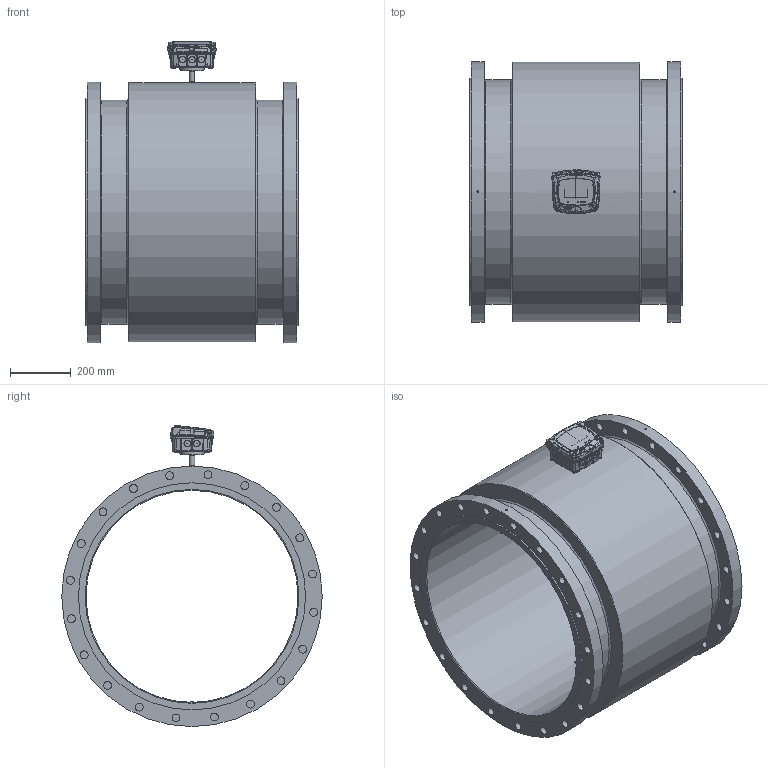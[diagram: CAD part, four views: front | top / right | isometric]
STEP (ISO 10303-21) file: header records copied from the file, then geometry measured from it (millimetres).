
FILE_DESCRIPTION((''),'2;1');
FILE_NAME('C:\Users\Claus\Dropbox\Projects 2011 - 2012\MJK Automation AS\STEP 3D DIN EN-1095-1\DN 700 - DIN EN-1095-1.stp','2015-01-17T21:17:52',('Claus'),(''),'Autodesk Inventor 2013','Autodesk Inventor 2013','');
FILE_SCHEMA(('AUTOMOTIVE_DESIGN { 1 0 10303 214 1 1 1 1 }'));
Length unit declared in the file: millimetre
Products named in the file (7): DN 700 - DIN EN-1095-1; FC_MagFlux_assembly_r1; CH Bund ml; FC Top rev 06.04; CH 03.02; Electrode group DN15 - DN32
Assembly tree (8 placements, depth 3):
  DN 700 - DIN EN-1095-1
    DN 700 - DIN EN-1095-1
    FC_MagFlux_assembly_r1
      CH Bund ml
      FC Top rev 06.04
      CH 03.02
    Electrode group DN15 - DN32  x3
Bounding box: 700 x 860 x 994.34 mm (x, y, z)
Volume: 105246984.7 mm3; surface area: 4645597.3 mm2
Topology: 10 solids, 10 shells, 2959 faces, 8066 edges, 5251 vertices
Faces by surface type: bspline 1752, plane 810, cylinder 234, cone 123, torus 25, revolution 9, sphere 6
Full cylindrical faces by diameter (mm): 2.5 x3, 3 x6, 4 x1, 6 x2, 6.5 x4, 7.042 x4, 8 x3, 8.048 x4, 12.072 x4, 15 x1, 18 x1, 18.108 x1, 26 x40, 64 x1, 700 x1, 740 x2, 750 x2, 856 x1, 860 x2
Entity records: 234889 total; most frequent: CARTESIAN_POINT 171690, ORIENTED_EDGE 15592, DIRECTION 7901, EDGE_CURVE 7796, VERTEX_POINT 5189, EDGE_LOOP 3369, VECTOR 3112, LINE 3112
